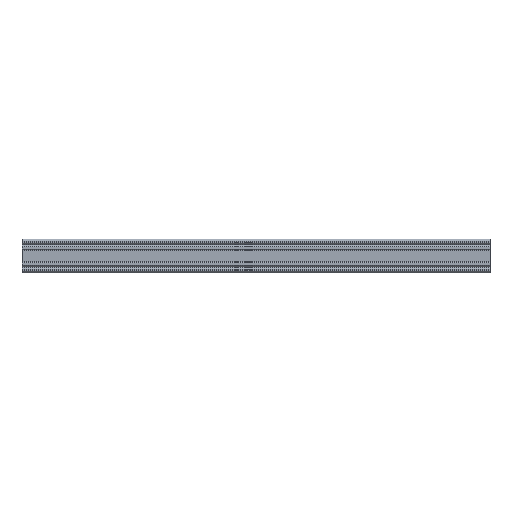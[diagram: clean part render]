
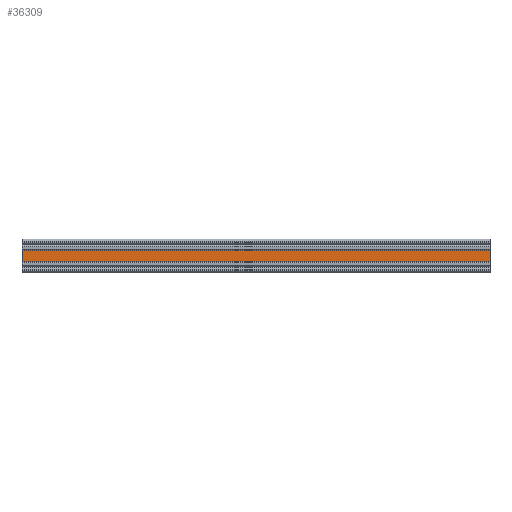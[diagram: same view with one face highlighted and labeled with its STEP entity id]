
A CAD part, left-side view. The second image highlights one B-rep face of the part: STEP entity #36309.
In plain terms, the highlighted planar face has unit normal (-1, 0, 0).
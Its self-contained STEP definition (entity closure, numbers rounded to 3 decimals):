
#205 = VECTOR ( 'NONE', #31780, 1000. ) ;
#2343 = CARTESIAN_POINT ( 'NONE',  ( -8., -168., 5.525 ) ) ;
#3014 = CARTESIAN_POINT ( 'NONE',  ( -8., -168., -5.525 ) ) ;
#4035 = VECTOR ( 'NONE', #36166, 1000. ) ;
#4709 = VECTOR ( 'NONE', #43944, 1000. ) ;
#16279 = CARTESIAN_POINT ( 'NONE',  ( -8., 168., -5.525 ) ) ;
#16302 = VERTEX_POINT ( 'NONE', #44004 ) ;
#16820 = EDGE_CURVE ( 'NONE', #16302, #22087, #19833, .T. ) ;
#17656 = FACE_OUTER_BOUND ( 'NONE', #40843, .T. ) ;
#18353 = CARTESIAN_POINT ( 'NONE',  ( -8., -168., -5.525 ) ) ;
#19833 = LINE ( 'NONE', #47618, #4709 ) ;
#21146 = ORIENTED_EDGE ( 'NONE', *, *, #16820, .T. ) ;
#21878 = LINE ( 'NONE', #29156, #23853 ) ;
#22087 = VERTEX_POINT ( 'NONE', #16279 ) ;
#23853 = VECTOR ( 'NONE', #51154, 1000. ) ;
#23955 = ORIENTED_EDGE ( 'NONE', *, *, #44457, .T. ) ;
#26377 = LINE ( 'NONE', #3014, #4035 ) ;
#26625 = DIRECTION ( 'NONE',  ( 1., 0., 0. ) ) ;
#29156 = CARTESIAN_POINT ( 'NONE',  ( -8., -168., 5.525 ) ) ;
#30881 = DIRECTION ( 'NONE',  ( 0., 0., -1. ) ) ;
#31394 = VERTEX_POINT ( 'NONE', #18353 ) ;
#31780 = DIRECTION ( 'NONE',  ( 0., 0., -1. ) ) ;
#34383 = EDGE_CURVE ( 'NONE', #31394, #22087, #26377, .T. ) ;
#36166 = DIRECTION ( 'NONE',  ( 0., 1., 0. ) ) ;
#36309 = ADVANCED_FACE ( 'NONE', ( #17656 ), #39773, .F. ) ;
#39437 = VERTEX_POINT ( 'NONE', #53569 ) ;
#39773 = PLANE ( 'NONE',  #41256 ) ;
#40843 = EDGE_LOOP ( 'NONE', ( #21146, #46526, #45433, #23955 ) ) ;
#41256 = AXIS2_PLACEMENT_3D ( 'NONE', #48372, #26625, #30881 ) ;
#43944 = DIRECTION ( 'NONE',  ( 0., 0., -1. ) ) ;
#44004 = CARTESIAN_POINT ( 'NONE',  ( -8., 168., 5.525 ) ) ;
#44181 = EDGE_CURVE ( 'NONE', #39437, #31394, #44314, .T. ) ;
#44314 = LINE ( 'NONE', #2343, #205 ) ;
#44457 = EDGE_CURVE ( 'NONE', #39437, #16302, #21878, .T. ) ;
#45433 = ORIENTED_EDGE ( 'NONE', *, *, #44181, .F. ) ;
#46526 = ORIENTED_EDGE ( 'NONE', *, *, #34383, .F. ) ;
#47618 = CARTESIAN_POINT ( 'NONE',  ( -8., 168., 5.525 ) ) ;
#48372 = CARTESIAN_POINT ( 'NONE',  ( -8., -168., 5.525 ) ) ;
#51154 = DIRECTION ( 'NONE',  ( 0., 1., 0. ) ) ;
#53569 = CARTESIAN_POINT ( 'NONE',  ( -8., -168., 5.525 ) ) ;
